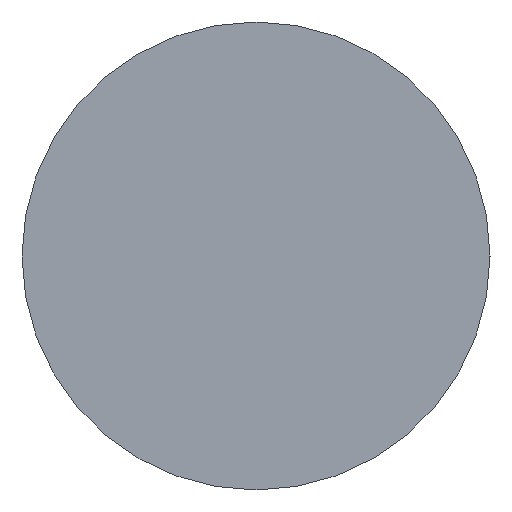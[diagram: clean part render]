
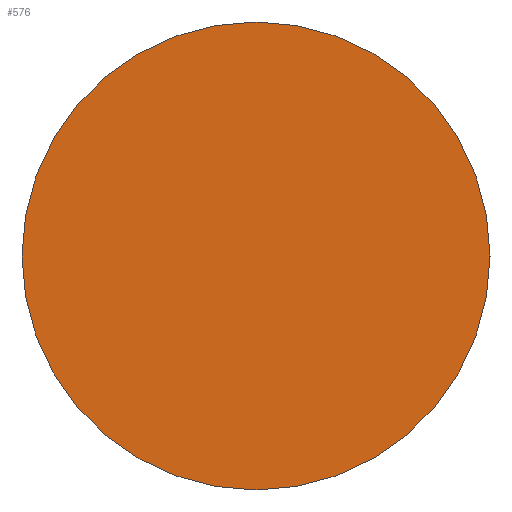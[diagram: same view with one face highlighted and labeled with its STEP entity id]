
A CAD part, left-side view. The second image highlights one B-rep face of the part: STEP entity #576.
In plain terms, the highlighted planar face has unit normal (-1, 0, 0).
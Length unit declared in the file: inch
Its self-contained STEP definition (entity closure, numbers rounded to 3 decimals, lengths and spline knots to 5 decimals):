
#35 = CARTESIAN_POINT ( 'NONE',  ( -6., 0.375, 0. ) ) ;
#41 = CIRCLE ( 'NONE', #455, 0.375 ) ;
#42 = DIRECTION ( 'NONE',  ( 0., 0., 1. ) ) ;
#158 = AXIS2_PLACEMENT_3D ( 'NONE', #35, #245, #533 ) ;
#194 = EDGE_LOOP ( 'NONE', ( #319, #408 ) ) ;
#206 = EDGE_CURVE ( 'NONE', #451, #305, #538, .T. ) ;
#211 = DIRECTION ( 'NONE',  ( -1., 0., 0. ) ) ;
#220 = EDGE_CURVE ( 'NONE', #305, #451, #41, .T. ) ;
#232 = CARTESIAN_POINT ( 'NONE',  ( -6., 0., 0.375 ) ) ;
#245 = DIRECTION ( 'NONE',  ( 1., 0., 0. ) ) ;
#257 = CARTESIAN_POINT ( 'NONE',  ( -6., 0., 0. ) ) ;
#305 = VERTEX_POINT ( 'NONE', #232 ) ;
#319 = ORIENTED_EDGE ( 'NONE', *, *, #220, .T. ) ;
#407 = CARTESIAN_POINT ( 'NONE',  ( -6., 0., -0.375 ) ) ;
#408 = ORIENTED_EDGE ( 'NONE', *, *, #206, .T. ) ;
#449 = DIRECTION ( 'NONE',  ( 0., 0., 1. ) ) ;
#451 = VERTEX_POINT ( 'NONE', #407 ) ;
#455 = AXIS2_PLACEMENT_3D ( 'NONE', #593, #600, #42 ) ;
#467 = FACE_OUTER_BOUND ( 'NONE', #194, .T. ) ;
#482 = AXIS2_PLACEMENT_3D ( 'NONE', #257, #211, #449 ) ;
#533 = DIRECTION ( 'NONE',  ( 0., 0., -1. ) ) ;
#538 = CIRCLE ( 'NONE', #482, 0.375 ) ;
#544 = PLANE ( 'NONE',  #158 ) ;
#576 = ADVANCED_FACE ( 'NONE', ( #467 ), #544, .F. ) ;
#593 = CARTESIAN_POINT ( 'NONE',  ( -6., 0., 0. ) ) ;
#600 = DIRECTION ( 'NONE',  ( -1., 0., 0. ) ) ;
